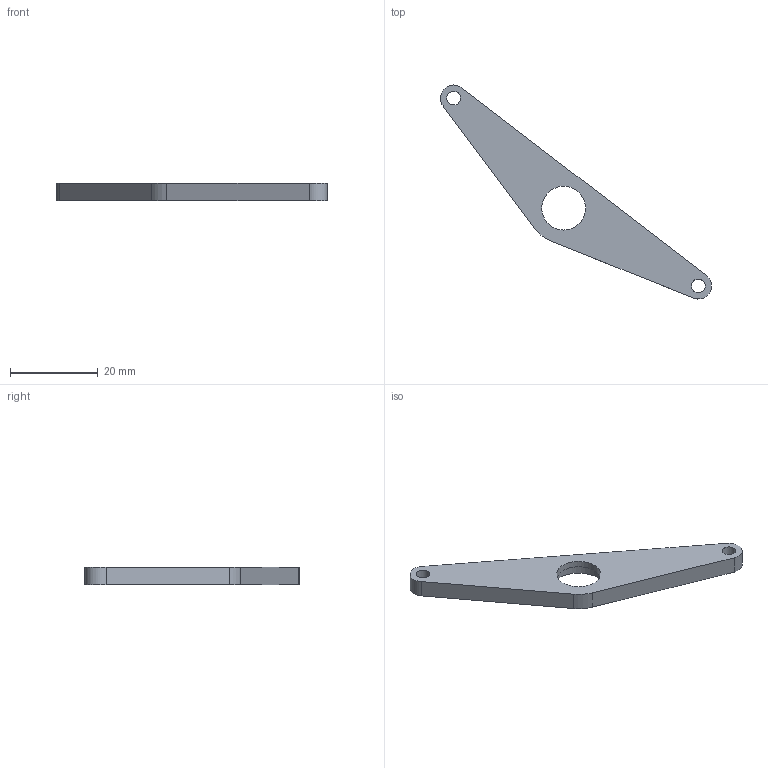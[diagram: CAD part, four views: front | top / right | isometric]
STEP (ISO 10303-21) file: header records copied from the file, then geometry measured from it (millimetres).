
FILE_DESCRIPTION(/* description */ ('STEP AP242','CAx-IF Rec.Pracs.---Representation and Presentation of Product Manufacturing Information (PMI)---4.0---2014-10-13','CAx-IF Rec.Pracs.---3D Tessellated Geometry---0.4---2014-09-14','2;1'),/* implementation_level */ '2;1');
FILE_NAME(/* name */ '28 - Back axes bearing support - Back axes bearing support',/* time_stamp */ '2024-12-03T19:58:34Z',/* author */ (''),/* organization */ (''),/* preprocessor_version */ 'ST-DEVELOPER v20',/* originating_system */ 'ONSHAPE BY PTC INC, 1.190',/* authorisation */ ' ');
FILE_SCHEMA (('AP242_MANAGED_MODEL_BASED_3D_ENGINEERING_MIM_LF { 1 0 10303 442 1 1 4 }'));
Length unit declared in the file: metre
Products named in the file (1): Back axes bearing support
Bounding box: 61.84 x 48.85 x 4 mm (x, y, z)
Volume: 2758.7 mm3; surface area: 2294.1 mm2
Topology: 1 solids, 1 shells, 13 faces, 30 edges, 20 vertices
Faces by surface type: cylinder 7, plane 6
Full cylindrical faces by diameter (mm): 3.1 x2, 10 x1, 12.1 x1
Entity records: 392 total; most frequent: DIRECTION 68, CARTESIAN_POINT 60, ORIENTED_EDGE 52, AXIS2_PLACEMENT_3D 28, EDGE_CURVE 26, EDGE_LOOP 24, FACE_BOUND 24, VERTEX_POINT 20
